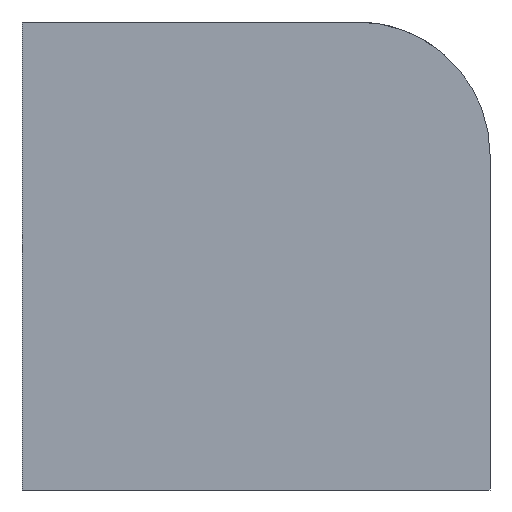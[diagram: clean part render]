
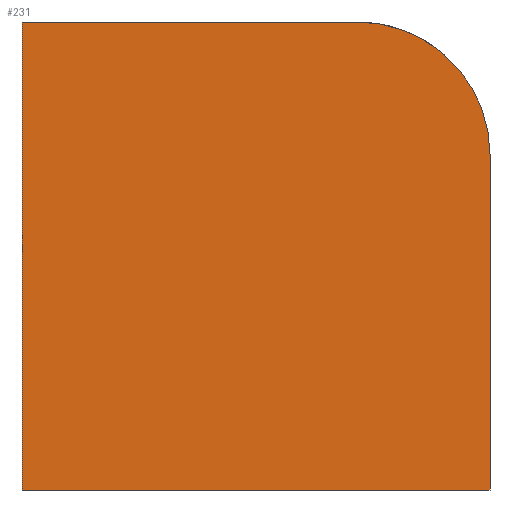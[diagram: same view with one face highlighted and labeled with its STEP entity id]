
A CAD part, left-side view. The second image highlights one B-rep face of the part: STEP entity #231.
In plain terms, the highlighted planar face has unit normal (-1, 0, 0).
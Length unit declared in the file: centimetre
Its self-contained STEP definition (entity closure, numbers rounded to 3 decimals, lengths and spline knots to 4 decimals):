
#16 = CARTESIAN_POINT ( 'NONE',  ( 0., 1000., 1000. ) ) ;
#76 = CARTESIAN_POINT ( 'NONE',  ( 0., 283.906, 1000. ) ) ;
#106 = FACE_OUTER_BOUND ( 'NONE', #360, .T. ) ;
#109 = EDGE_CURVE ( 'NONE', #275, #1001, #219, .T. ) ;
#201 = VERTEX_POINT ( 'NONE', #674 ) ;
#202 = VECTOR ( 'NONE', #921, 100. ) ;
#219 = LINE ( 'NONE', #548, #298 ) ;
#231 = ADVANCED_FACE ( 'NONE', ( #106 ), #1279, .F. ) ;
#275 = VERTEX_POINT ( 'NONE', #922 ) ;
#298 = VECTOR ( 'NONE', #783, 100. ) ;
#357 = CARTESIAN_POINT ( 'NONE',  ( 0., 0., 0. ) ) ;
#360 = EDGE_LOOP ( 'NONE', ( #419, #1277, #1078, #799, #701 ) ) ;
#419 = ORIENTED_EDGE ( 'NONE', *, *, #728, .F. ) ;
#448 = DIRECTION ( 'NONE',  ( 1., 0., 0. ) ) ;
#450 = CARTESIAN_POINT ( 'NONE',  ( 0., 1000., 1000. ) ) ;
#476 = VERTEX_POINT ( 'NONE', #16 ) ;
#521 = LINE ( 'NONE', #998, #1166 ) ;
#548 = CARTESIAN_POINT ( 'NONE',  ( 0., 1000., 0. ) ) ;
#558 = CARTESIAN_POINT ( 'NONE',  ( 0., 283.906, 716.094 ) ) ;
#565 = DIRECTION ( 'NONE',  ( 0., 0., -1. ) ) ;
#674 = CARTESIAN_POINT ( 'NONE',  ( 0., 0., 716.094 ) ) ;
#701 = ORIENTED_EDGE ( 'NONE', *, *, #109, .T. ) ;
#728 = EDGE_CURVE ( 'NONE', #201, #1001, #521, .T. ) ;
#746 = VERTEX_POINT ( 'NONE', #76 ) ;
#747 = DIRECTION ( 'NONE',  ( -1., 0., 0. ) ) ;
#783 = DIRECTION ( 'NONE',  ( 0., -1., 0. ) ) ;
#794 = DIRECTION ( 'NONE',  ( 0., -1., 0. ) ) ;
#799 = ORIENTED_EDGE ( 'NONE', *, *, #1362, .T. ) ;
#865 = LINE ( 'NONE', #1466, #1481 ) ;
#916 = DIRECTION ( 'NONE',  ( 0., 0., -1. ) ) ;
#921 = DIRECTION ( 'NONE',  ( 0., 0., -1. ) ) ;
#922 = CARTESIAN_POINT ( 'NONE',  ( 0., 1000., 0. ) ) ;
#944 = AXIS2_PLACEMENT_3D ( 'NONE', #558, #747, #565 ) ;
#998 = CARTESIAN_POINT ( 'NONE',  ( 0., 0., 1000. ) ) ;
#1001 = VERTEX_POINT ( 'NONE', #357 ) ;
#1078 = ORIENTED_EDGE ( 'NONE', *, *, #1252, .F. ) ;
#1121 = LINE ( 'NONE', #450, #202 ) ;
#1166 = VECTOR ( 'NONE', #1354, 100. ) ;
#1252 = EDGE_CURVE ( 'NONE', #476, #746, #865, .T. ) ;
#1277 = ORIENTED_EDGE ( 'NONE', *, *, #1293, .T. ) ;
#1279 = PLANE ( 'NONE',  #1464 ) ;
#1293 = EDGE_CURVE ( 'NONE', #201, #746, #1365, .T. ) ;
#1354 = DIRECTION ( 'NONE',  ( 0., 0., -1. ) ) ;
#1362 = EDGE_CURVE ( 'NONE', #476, #275, #1121, .T. ) ;
#1365 = CIRCLE ( 'NONE', #944, 283.906 ) ;
#1464 = AXIS2_PLACEMENT_3D ( 'NONE', #1502, #448, #916 ) ;
#1466 = CARTESIAN_POINT ( 'NONE',  ( 0., 1000., 1000. ) ) ;
#1481 = VECTOR ( 'NONE', #794, 100. ) ;
#1502 = CARTESIAN_POINT ( 'NONE',  ( 0., 1000., 1000. ) ) ;
